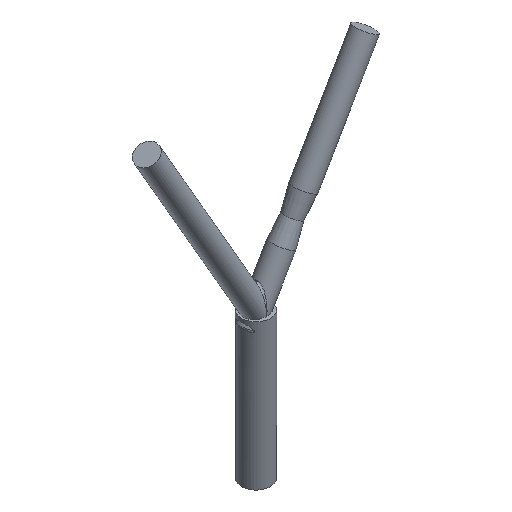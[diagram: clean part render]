
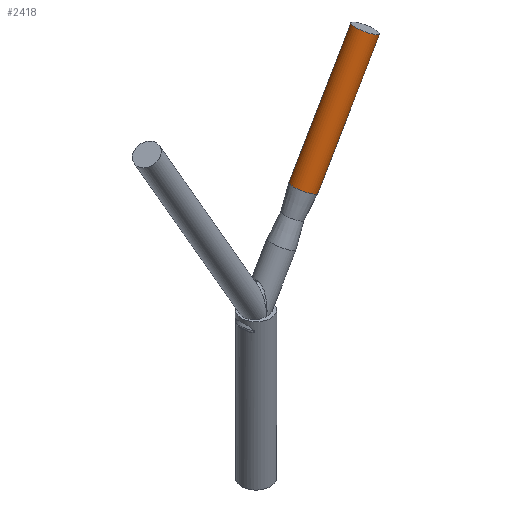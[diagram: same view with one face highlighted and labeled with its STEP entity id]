
A CAD part, isometric view. The second image highlights one B-rep face of the part: STEP entity #2418.
In plain terms, the highlighted cylindrical face has radius 3 mm (diameter 6 mm), a full revolution.
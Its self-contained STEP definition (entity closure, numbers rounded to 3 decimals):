
#2342 = SURFACE_OF_REVOLUTION('',#2343,#2348);
#2343 = B_SPLINE_CURVE_WITH_KNOTS('',3,(#2344,#2345,#2346,#2347),
  .UNSPECIFIED.,.F.,.F.,(4,4),(0.,1.),.PIECEWISE_BEZIER_KNOTS.);
#2344 = CARTESIAN_POINT('',(12.078,0.,56.121));
#2345 = CARTESIAN_POINT('',(13.078,0.,57.853));
#2346 = CARTESIAN_POINT('',(14.598,0.,59.285));
#2347 = CARTESIAN_POINT('',(15.598,0.,61.017));
#2348 = AXIS1_PLACEMENT('',#2349,#2350);
#2349 = CARTESIAN_POINT('',(-2.,0.,36.536));
#2350 = DIRECTION('',(0.5,0.,0.866));
#2368 = VERTEX_POINT('',#2369);
#2369 = CARTESIAN_POINT('',(15.598,0.,61.017));
#2391 = EDGE_CURVE('',#2368,#2368,#2392,.T.);
#2392 = SURFACE_CURVE('',#2393,(#2398,#2405),.PCURVE_S1.);
#2393 = CIRCLE('',#2394,3.);
#2394 = AXIS2_PLACEMENT_3D('',#2395,#2396,#2397);
#2395 = CARTESIAN_POINT('',(13.,0.,62.517));
#2396 = DIRECTION('',(0.5,-0.,0.866));
#2397 = DIRECTION('',(0.866,0.,-0.5));
#2398 = PCURVE('',#2342,#2399);
#2399 = DEFINITIONAL_REPRESENTATION('',(#2400),#2404);
#2400 = LINE('',#2401,#2402);
#2401 = CARTESIAN_POINT('',(0.,1.));
#2402 = VECTOR('',#2403,1.);
#2403 = DIRECTION('',(1.,0.));
#2404 = ( GEOMETRIC_REPRESENTATION_CONTEXT(2) 
PARAMETRIC_REPRESENTATION_CONTEXT() REPRESENTATION_CONTEXT('2D SPACE',''
  ) );
#2405 = PCURVE('',#2406,#2411);
#2406 = CYLINDRICAL_SURFACE('',#2407,3.);
#2407 = AXIS2_PLACEMENT_3D('',#2408,#2409,#2410);
#2408 = CARTESIAN_POINT('',(13.,0.,62.517));
#2409 = DIRECTION('',(0.5,0.,0.866));
#2410 = DIRECTION('',(0.866,0.,-0.5));
#2411 = DEFINITIONAL_REPRESENTATION('',(#2412),#2416);
#2412 = LINE('',#2413,#2414);
#2413 = CARTESIAN_POINT('',(0.,0.));
#2414 = VECTOR('',#2415,1.);
#2415 = DIRECTION('',(1.,0.));
#2416 = ( GEOMETRIC_REPRESENTATION_CONTEXT(2) 
PARAMETRIC_REPRESENTATION_CONTEXT() REPRESENTATION_CONTEXT('2D SPACE',''
  ) );
#2418 = ADVANCED_FACE('',(#2419),#2406,.T.);
#2419 = FACE_BOUND('',#2420,.T.);
#2420 = EDGE_LOOP('',(#2421,#2422,#2445,#2472));
#2421 = ORIENTED_EDGE('',*,*,#2391,.T.);
#2422 = ORIENTED_EDGE('',*,*,#2423,.T.);
#2423 = EDGE_CURVE('',#2368,#2424,#2426,.T.);
#2424 = VERTEX_POINT('',#2425);
#2425 = CARTESIAN_POINT('',(32.598,0.,90.462));
#2426 = SEAM_CURVE('',#2427,(#2431,#2438),.PCURVE_S1.);
#2427 = LINE('',#2428,#2429);
#2428 = CARTESIAN_POINT('',(15.598,0.,61.017));
#2429 = VECTOR('',#2430,1.);
#2430 = DIRECTION('',(0.5,0.,0.866));
#2431 = PCURVE('',#2406,#2432);
#2432 = DEFINITIONAL_REPRESENTATION('',(#2433),#2437);
#2433 = LINE('',#2434,#2435);
#2434 = CARTESIAN_POINT('',(0.,0.));
#2435 = VECTOR('',#2436,1.);
#2436 = DIRECTION('',(0.,1.));
#2437 = ( GEOMETRIC_REPRESENTATION_CONTEXT(2) 
PARAMETRIC_REPRESENTATION_CONTEXT() REPRESENTATION_CONTEXT('2D SPACE',''
  ) );
#2438 = PCURVE('',#2406,#2439);
#2439 = DEFINITIONAL_REPRESENTATION('',(#2440),#2444);
#2440 = LINE('',#2441,#2442);
#2441 = CARTESIAN_POINT('',(6.283,0.));
#2442 = VECTOR('',#2443,1.);
#2443 = DIRECTION('',(0.,1.));
#2444 = ( GEOMETRIC_REPRESENTATION_CONTEXT(2) 
PARAMETRIC_REPRESENTATION_CONTEXT() REPRESENTATION_CONTEXT('2D SPACE',''
  ) );
#2445 = ORIENTED_EDGE('',*,*,#2446,.F.);
#2446 = EDGE_CURVE('',#2424,#2424,#2447,.T.);
#2447 = SURFACE_CURVE('',#2448,(#2453,#2460),.PCURVE_S1.);
#2448 = CIRCLE('',#2449,3.);
#2449 = AXIS2_PLACEMENT_3D('',#2450,#2451,#2452);
#2450 = CARTESIAN_POINT('',(30.,0.,91.962));
#2451 = DIRECTION('',(0.5,-0.,0.866));
#2452 = DIRECTION('',(0.866,0.,-0.5));
#2453 = PCURVE('',#2406,#2454);
#2454 = DEFINITIONAL_REPRESENTATION('',(#2455),#2459);
#2455 = LINE('',#2456,#2457);
#2456 = CARTESIAN_POINT('',(0.,34.));
#2457 = VECTOR('',#2458,1.);
#2458 = DIRECTION('',(1.,0.));
#2459 = ( GEOMETRIC_REPRESENTATION_CONTEXT(2) 
PARAMETRIC_REPRESENTATION_CONTEXT() REPRESENTATION_CONTEXT('2D SPACE',''
  ) );
#2460 = PCURVE('',#2461,#2466);
#2461 = PLANE('',#2462);
#2462 = AXIS2_PLACEMENT_3D('',#2463,#2464,#2465);
#2463 = CARTESIAN_POINT('',(30.,0.,91.962));
#2464 = DIRECTION('',(0.5,0.,0.866));
#2465 = DIRECTION('',(0.866,0.,-0.5));
#2466 = DEFINITIONAL_REPRESENTATION('',(#2467),#2471);
#2467 = CIRCLE('',#2468,3.);
#2468 = AXIS2_PLACEMENT_2D('',#2469,#2470);
#2469 = CARTESIAN_POINT('',(0.,0.));
#2470 = DIRECTION('',(1.,0.));
#2471 = ( GEOMETRIC_REPRESENTATION_CONTEXT(2) 
PARAMETRIC_REPRESENTATION_CONTEXT() REPRESENTATION_CONTEXT('2D SPACE',''
  ) );
#2472 = ORIENTED_EDGE('',*,*,#2423,.F.);
